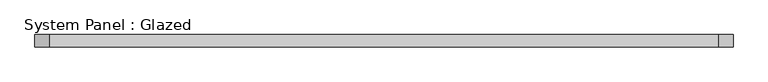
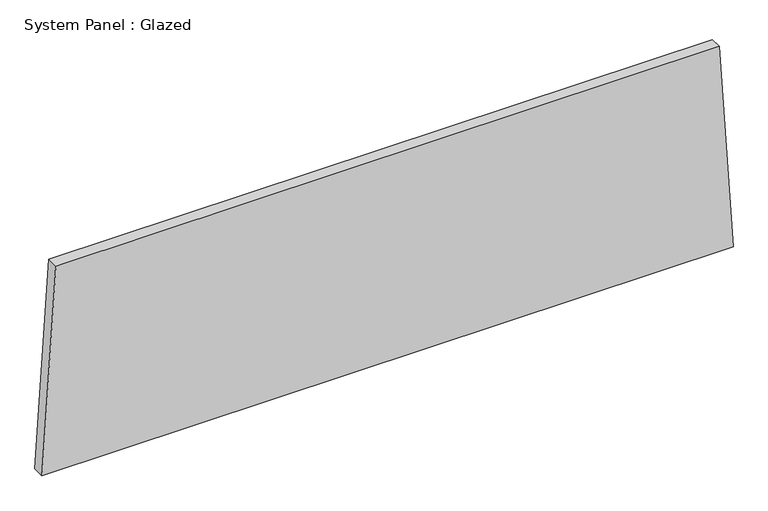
"""IFC4 building model written with IfcOpenShell, lengths in millimetres: plate geometry, System Panel : Glazed."""

from ifc_helpers import new_model, si_unit, frame, origin, place, context, project, spatial, polyline, outline, extrude, source, transform, mapped, element, save


def system_panel_glazed_2fe36e08(model_context):
    return source(origin(), model_context, "Body", "SweptSolid", [
        extrude(outline(polyline([(0.0, -729.6837829), (0.0, 729.6837829), (457.5813622, 700.2186862), (457.5813622, -700.2186862), (0.0, -729.6837829)])), frame((0.0, 19.05, 0.0), z_axis=(0.0, 1.0, 0.0), x_axis=(0.0, 0.0, 1.0)), (0.0, 0.0, 1.0), 25.4),
    ])


if __name__ == "__main__":
    model = new_model("IFC4")
    model_context = context("Model", 3, world=origin())
    ifc_project = project(units=[si_unit("LENGTHUNIT", "METRE", prefix="MILLI")], contexts=[model_context])
    site = spatial("IfcSite", under=ifc_project)
    building = spatial("IfcBuilding", under=site)
    placement = place(None, origin())
    system_panel_glazed_shape = system_panel_glazed_2fe36e08(model_context)
    element("IfcPlate", 1, ObjectType="System Panel : Glazed", at=placement, inside=building, context=model_context, shape_type="MappedRepresentation", body=[
        mapped(system_panel_glazed_shape, transform((0.0, 0.0, 0.0), x_axis=(1.0, 0.0, 0.0), y_axis=(0.0, 1.0, 0.0), z_axis=(0.0, 0.0, 1.0))),
    ])
    save(model, "model.ifc")
